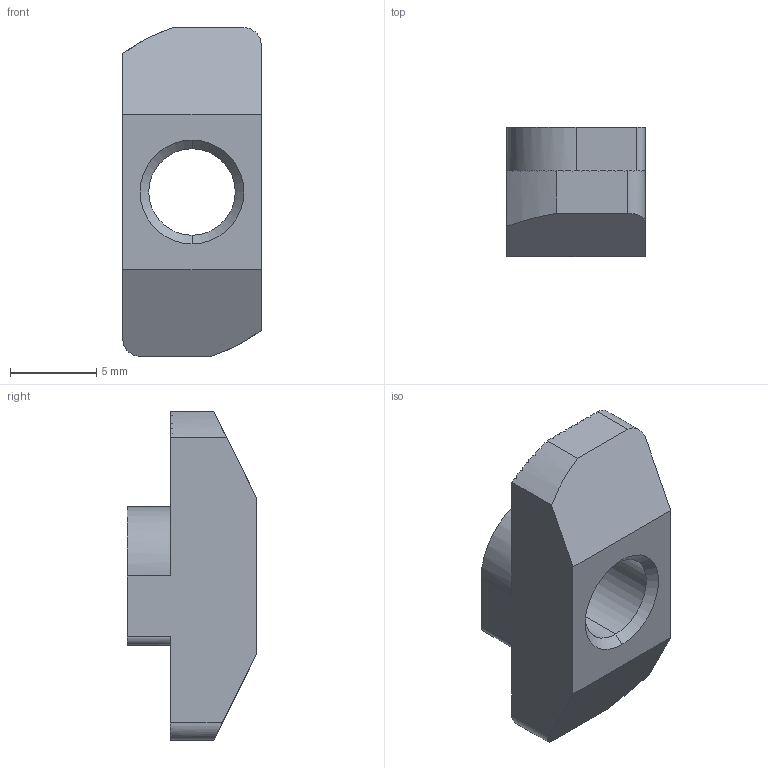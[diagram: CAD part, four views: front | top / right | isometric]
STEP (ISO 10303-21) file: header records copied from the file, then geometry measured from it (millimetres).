
FILE_DESCRIPTION (( 'STEP AP203' ), '1' );
FILE_NAME ('LIMA-RN6-84040.STEP', '2018-03-15T12:24:56', ( '' ), ( '' ), 'SwSTEP 2.0', 'SolidWorks 2013', '' );
FILE_SCHEMA (( 'CONFIG_CONTROL_DESIGN' ));
Length unit declared in the file: millimetre
Products named in the file (1): LIMA-RN6-84040
Bounding box: 8 x 7.5 x 19 mm (x, y, z)
Volume: 631.1 mm3; surface area: 654.8 mm2
Topology: 1 solids, 1 shells, 122 faces, 356 edges, 236 vertices
Faces by surface type: plane 108, cylinder 10, cone 4
Entity records: 4082 total; most frequent: CARTESIAN_POINT 931, ORIENTED_EDGE 712, DIRECTION 583, EDGE_CURVE 356, VERTEX_POINT 236, VECTOR 231, LINE 231, AXIS2_PLACEMENT_3D 176
